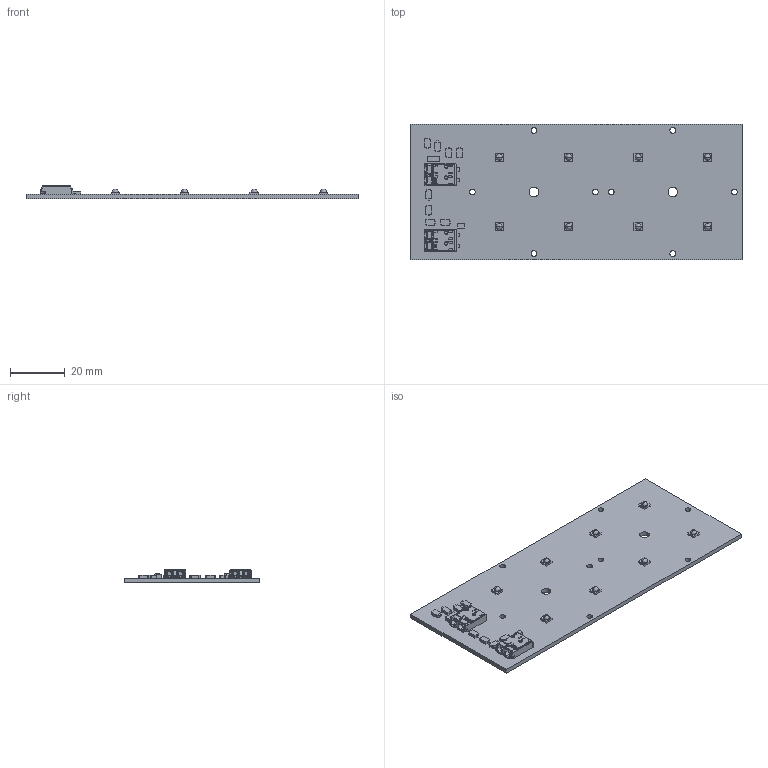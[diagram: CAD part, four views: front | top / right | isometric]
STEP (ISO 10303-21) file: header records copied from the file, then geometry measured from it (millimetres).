
FILE_DESCRIPTION((''),'2;1');
FILE_NAME('RLE_2X4_MODUL','2016-04-18T',('bernhard.fink'),(''),'PRO/ENGINEER BY PARAMETRIC TECHNOLOGY CORPORATION, 2015200','PRO/ENGINEER BY PARAMETRIC TECHNOLOGY CORPORATION, 2015200','');
FILE_SCHEMA(('AUTOMOTIVE_DESIGN { 1 0 10303 214 1 1 1 1 }'));
Length unit declared in the file: millimetre
Products named in the file (3): S144C_MODUL; ET_MICROCON_SMD_2POL; RLE_2X4_MODUL
Assembly tree (3 placements, depth 2):
  RLE_2X4_MODUL
    S144C_MODUL
    ET_MICROCON_SMD_2POL  x2
Bounding box: 121.4 x 49.5 x 5.1 mm (x, y, z)
Volume: 10497.4 mm3; surface area: 13783.8 mm2
Topology: 13 solids, 13 shells, 1080 faces, 2802 edges, 1736 vertices
Faces by surface type: plane 520, cylinder 240, bspline 200, cone 60, sphere 36, torus 24
Entity records: 31486 total; most frequent: CARTESIAN_POINT 7653, ORIENTED_EDGE 3396, DIRECTION 2798, PRESENTATION_STYLE_ASSIGNMENT 2003, STYLED_ITEM 1716, CURVE_STYLE 1698, EDGE_CURVE 1698, VECTOR 1104
